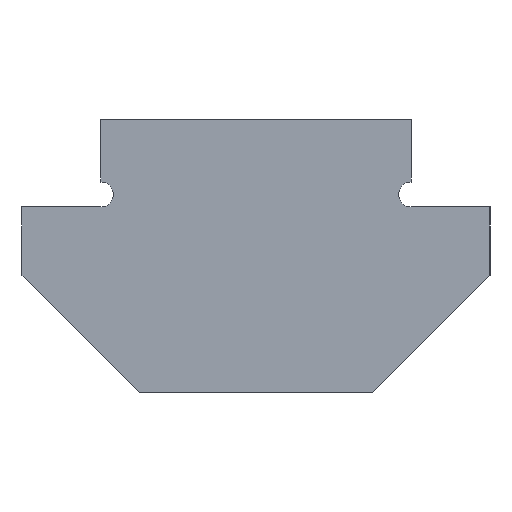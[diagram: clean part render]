
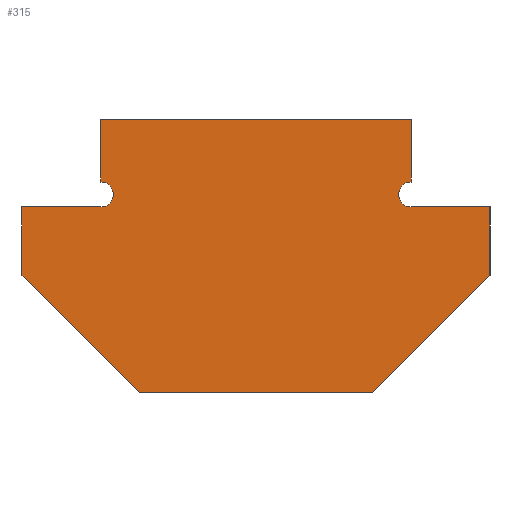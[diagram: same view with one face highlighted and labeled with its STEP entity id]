
A CAD part, left-side view. The second image highlights one B-rep face of the part: STEP entity #315.
In plain terms, the highlighted planar face has unit normal (-1, 0, 0).
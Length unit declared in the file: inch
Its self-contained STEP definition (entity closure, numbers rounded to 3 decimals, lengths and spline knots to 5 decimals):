
#5=DIRECTION('',(0.,-0.707,-0.707));
#6=VECTOR('',#5,0.1994);
#7=CARTESIAN_POINT('',(-0.875,0.2815,-0.082));
#8=LINE('',#7,#6);
#9=DIRECTION('',(0.,0.,-1.));
#10=VECTOR('',#9,0.082);
#11=CARTESIAN_POINT('',(-0.875,0.2815,0.));
#12=LINE('',#11,#10);
#13=DIRECTION('',(0.,1.,0.));
#14=VECTOR('',#13,0.095);
#15=CARTESIAN_POINT('',(-0.875,0.1865,0.));
#16=LINE('',#15,#14);
#17=CARTESIAN_POINT('',(-0.875,0.1865,0.015));
#18=DIRECTION('',(1.,0.,0.));
#19=DIRECTION('',(0.,0.,1.));
#20=AXIS2_PLACEMENT_3D('',#17,#18,#19);
#22=DIRECTION('',(0.,0.,-1.));
#23=VECTOR('',#22,0.075);
#24=CARTESIAN_POINT('',(-0.875,0.1865,0.105));
#25=LINE('',#24,#23);
#26=DIRECTION('',(0.,1.,0.));
#27=VECTOR('',#26,0.373);
#28=CARTESIAN_POINT('',(-0.875,-0.1865,0.105));
#29=LINE('',#28,#27);
#30=DIRECTION('',(0.,0.,1.));
#31=VECTOR('',#30,0.075);
#32=CARTESIAN_POINT('',(-0.875,-0.1865,0.03));
#33=LINE('',#32,#31);
#34=CARTESIAN_POINT('',(-0.875,-0.1865,0.015));
#35=DIRECTION('',(1.,0.,0.));
#36=DIRECTION('',(0.,0.,-1.));
#37=AXIS2_PLACEMENT_3D('',#34,#35,#36);
#39=DIRECTION('',(0.,1.,0.));
#40=VECTOR('',#39,0.095);
#41=CARTESIAN_POINT('',(-0.875,-0.2815,0.));
#42=LINE('',#41,#40);
#43=DIRECTION('',(0.,0.,1.));
#44=VECTOR('',#43,0.082);
#45=CARTESIAN_POINT('',(-0.875,-0.2815,-0.082));
#46=LINE('',#45,#44);
#47=DIRECTION('',(0.,-0.707,0.707));
#48=VECTOR('',#47,0.1994);
#49=CARTESIAN_POINT('',(-0.875,-0.1405,-0.223));
#50=LINE('',#49,#48);
#51=DIRECTION('',(0.,-1.,0.));
#52=VECTOR('',#51,0.281);
#53=CARTESIAN_POINT('',(-0.875,0.1405,-0.223));
#54=LINE('',#53,#52);
#205=CARTESIAN_POINT('',(-0.875,0.1865,0.));
#206=CARTESIAN_POINT('',(-0.875,0.2815,0.));
#207=VERTEX_POINT('',#205);
#208=VERTEX_POINT('',#206);
#213=CARTESIAN_POINT('',(-0.875,0.1865,0.03));
#214=VERTEX_POINT('',#213);
#219=CARTESIAN_POINT('',(-0.875,0.2815,-0.082));
#221=VERTEX_POINT('',#219);
#233=CARTESIAN_POINT('',(-0.875,-0.1865,0.));
#234=CARTESIAN_POINT('',(-0.875,-0.1865,0.03));
#235=VERTEX_POINT('',#233);
#236=VERTEX_POINT('',#234);
#237=CARTESIAN_POINT('',(-0.875,-0.1865,0.105));
#239=VERTEX_POINT('',#237);
#243=CARTESIAN_POINT('',(-0.875,-0.1405,-0.223));
#244=CARTESIAN_POINT('',(-0.875,-0.2815,-0.082));
#245=VERTEX_POINT('',#243);
#246=VERTEX_POINT('',#244);
#251=CARTESIAN_POINT('',(-0.875,-0.2815,0.));
#252=VERTEX_POINT('',#251);
#253=CARTESIAN_POINT('',(-0.875,0.1865,0.105));
#254=VERTEX_POINT('',#253);
#261=CARTESIAN_POINT('',(-0.875,0.1405,-0.223));
#262=VERTEX_POINT('',#261);
#285=CARTESIAN_POINT('',(-0.875,-0.1865,0.015));
#286=DIRECTION('',(1.,0.,0.));
#287=DIRECTION('',(0.,0.,-1.));
#288=AXIS2_PLACEMENT_3D('',#285,#286,#287);
#289=PLANE('',#288);
#291=ORIENTED_EDGE('',*,*,#290,.F.);
#293=ORIENTED_EDGE('',*,*,#292,.F.);
#294=ORIENTED_EDGE('',*,*,#274,.F.);
#296=ORIENTED_EDGE('',*,*,#295,.F.);
#298=ORIENTED_EDGE('',*,*,#297,.F.);
#300=ORIENTED_EDGE('',*,*,#299,.F.);
#302=ORIENTED_EDGE('',*,*,#301,.F.);
#304=ORIENTED_EDGE('',*,*,#303,.F.);
#306=ORIENTED_EDGE('',*,*,#305,.F.);
#308=ORIENTED_EDGE('',*,*,#307,.F.);
#310=ORIENTED_EDGE('',*,*,#309,.F.);
#312=ORIENTED_EDGE('',*,*,#311,.F.);
#313=EDGE_LOOP('',(#291,#293,#294,#296,#298,#300,#302,#304,#306,#308,#310,
#312));
#314=FACE_OUTER_BOUND('',#313,.F.);
#21=CIRCLE('',#20,0.015);
#38=CIRCLE('',#37,0.015);
#274=EDGE_CURVE('',#207,#208,#16,.T.);
#290=EDGE_CURVE('',#221,#262,#8,.T.);
#292=EDGE_CURVE('',#208,#221,#12,.T.);
#295=EDGE_CURVE('',#214,#207,#21,.T.);
#297=EDGE_CURVE('',#254,#214,#25,.T.);
#299=EDGE_CURVE('',#239,#254,#29,.T.);
#301=EDGE_CURVE('',#236,#239,#33,.T.);
#303=EDGE_CURVE('',#235,#236,#38,.T.);
#305=EDGE_CURVE('',#252,#235,#42,.T.);
#307=EDGE_CURVE('',#246,#252,#46,.T.);
#309=EDGE_CURVE('',#245,#246,#50,.T.);
#311=EDGE_CURVE('',#262,#245,#54,.T.);
#315=ADVANCED_FACE('',(#314),#289,.F.);
